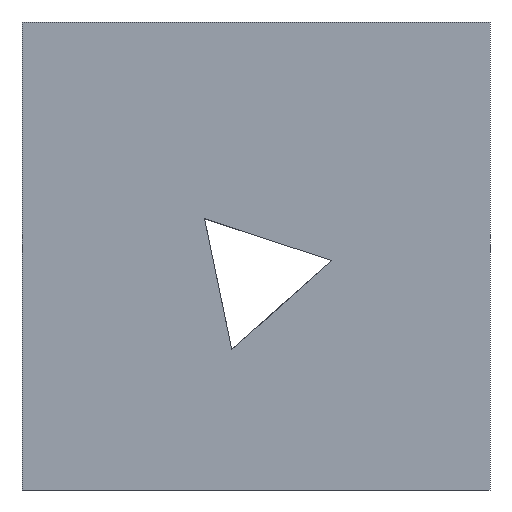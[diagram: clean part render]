
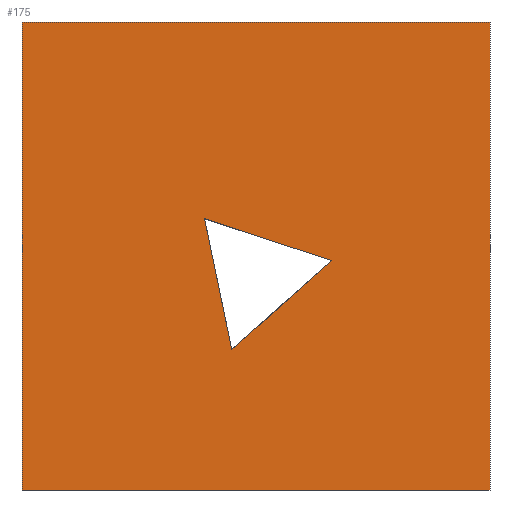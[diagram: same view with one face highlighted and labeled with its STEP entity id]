
A CAD part, front view. The second image highlights one B-rep face of the part: STEP entity #175.
In plain terms, the highlighted planar face has unit normal (0, -1, 0).
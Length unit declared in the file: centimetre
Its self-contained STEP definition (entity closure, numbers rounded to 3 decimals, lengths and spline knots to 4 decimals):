
#20 = ORIENTED_EDGE ( 'NONE', *, *, #915, .F. ) ;
#22 = VECTOR ( 'NONE', #129, 100. ) ;
#41 = LINE ( 'NONE', #737, #60 ) ;
#60 = VECTOR ( 'NONE', #359, 100. ) ;
#68 = LINE ( 'NONE', #610, #696 ) ;
#69 = CARTESIAN_POINT ( 'NONE',  ( 1000., 0., 0. ) ) ;
#72 = VECTOR ( 'NONE', #989, 100. ) ;
#98 = EDGE_CURVE ( 'NONE', #769, #751, #426, .T. ) ;
#129 = DIRECTION ( 'NONE',  ( -0.95, 0., 0.313 ) ) ;
#149 = VECTOR ( 'NONE', #584, 100. ) ;
#171 = EDGE_LOOP ( 'NONE', ( #20, #445, #950 ) ) ;
#175 = ADVANCED_FACE ( 'NONE', ( #780, #773 ), #535, .F. ) ;
#181 = LINE ( 'NONE', #558, #831 ) ;
#215 = ORIENTED_EDGE ( 'NONE', *, *, #98, .F. ) ;
#230 = EDGE_CURVE ( 'NONE', #769, #843, #68, .T. ) ;
#236 = DIRECTION ( 'NONE',  ( 0., 0., -1. ) ) ;
#258 = DIRECTION ( 'NONE',  ( 0., 0., -1. ) ) ;
#329 = ORIENTED_EDGE ( 'NONE', *, *, #606, .F. ) ;
#340 = ORIENTED_EDGE ( 'NONE', *, *, #230, .T. ) ;
#359 = DIRECTION ( 'NONE',  ( 0.746, 0., 0.666 ) ) ;
#366 = CARTESIAN_POINT ( 'NONE',  ( 661.5595, 0., 490.315 ) ) ;
#374 = VERTEX_POINT ( 'NONE', #748 ) ;
#381 = DIRECTION ( 'NONE',  ( 0., 1., 0. ) ) ;
#390 = CARTESIAN_POINT ( 'NONE',  ( 0., 0., 1000. ) ) ;
#426 = LINE ( 'NONE', #498, #149 ) ;
#441 = EDGE_CURVE ( 'NONE', #843, #1009, #526, .T. ) ;
#445 = ORIENTED_EDGE ( 'NONE', *, *, #1008, .F. ) ;
#453 = CARTESIAN_POINT ( 'NONE',  ( 0., 0., 0. ) ) ;
#498 = CARTESIAN_POINT ( 'NONE',  ( 0., 0., 1000. ) ) ;
#526 = LINE ( 'NONE', #994, #72 ) ;
#535 = PLANE ( 'NONE',  #974 ) ;
#558 = CARTESIAN_POINT ( 'NONE',  ( 1000., 0., 1000. ) ) ;
#584 = DIRECTION ( 'NONE',  ( 1., 0., 0. ) ) ;
#606 = EDGE_CURVE ( 'NONE', #751, #1009, #181, .T. ) ;
#610 = CARTESIAN_POINT ( 'NONE',  ( 0., 0., 1000. ) ) ;
#679 = LINE ( 'NONE', #768, #22 ) ;
#692 = VERTEX_POINT ( 'NONE', #366 ) ;
#694 = LINE ( 'NONE', #706, #1015 ) ;
#696 = VECTOR ( 'NONE', #236, 100. ) ;
#706 = CARTESIAN_POINT ( 'NONE',  ( 389.876, 0., 579.7695 ) ) ;
#737 = CARTESIAN_POINT ( 'NONE',  ( 448.2479, 0., 299.7574 ) ) ;
#742 = ORIENTED_EDGE ( 'NONE', *, *, #441, .T. ) ;
#748 = CARTESIAN_POINT ( 'NONE',  ( 389.876, 0., 579.7695 ) ) ;
#751 = VERTEX_POINT ( 'NONE', #830 ) ;
#768 = CARTESIAN_POINT ( 'NONE',  ( 661.5595, 0., 490.315 ) ) ;
#769 = VERTEX_POINT ( 'NONE', #1010 ) ;
#773 = FACE_OUTER_BOUND ( 'NONE', #775, .T. ) ;
#775 = EDGE_LOOP ( 'NONE', ( #742, #329, #215, #340 ) ) ;
#780 = FACE_BOUND ( 'NONE', #171, .T. ) ;
#802 = CARTESIAN_POINT ( 'NONE',  ( 448.2479, 0., 299.7574 ) ) ;
#830 = CARTESIAN_POINT ( 'NONE',  ( 1000., 0., 1000. ) ) ;
#831 = VECTOR ( 'NONE', #258, 100. ) ;
#839 = EDGE_CURVE ( 'NONE', #692, #374, #679, .T. ) ;
#843 = VERTEX_POINT ( 'NONE', #453 ) ;
#867 = DIRECTION ( 'NONE',  ( 0.204, 0., -0.979 ) ) ;
#915 = EDGE_CURVE ( 'NONE', #952, #692, #41, .T. ) ;
#950 = ORIENTED_EDGE ( 'NONE', *, *, #839, .F. ) ;
#952 = VERTEX_POINT ( 'NONE', #802 ) ;
#974 = AXIS2_PLACEMENT_3D ( 'NONE', #390, #381, #1006 ) ;
#989 = DIRECTION ( 'NONE',  ( 1., 0., 0. ) ) ;
#994 = CARTESIAN_POINT ( 'NONE',  ( 0., 0., 0. ) ) ;
#1006 = DIRECTION ( 'NONE',  ( 0., 0., 1. ) ) ;
#1008 = EDGE_CURVE ( 'NONE', #374, #952, #694, .T. ) ;
#1009 = VERTEX_POINT ( 'NONE', #69 ) ;
#1010 = CARTESIAN_POINT ( 'NONE',  ( 0., 0., 1000. ) ) ;
#1015 = VECTOR ( 'NONE', #867, 100. ) ;
